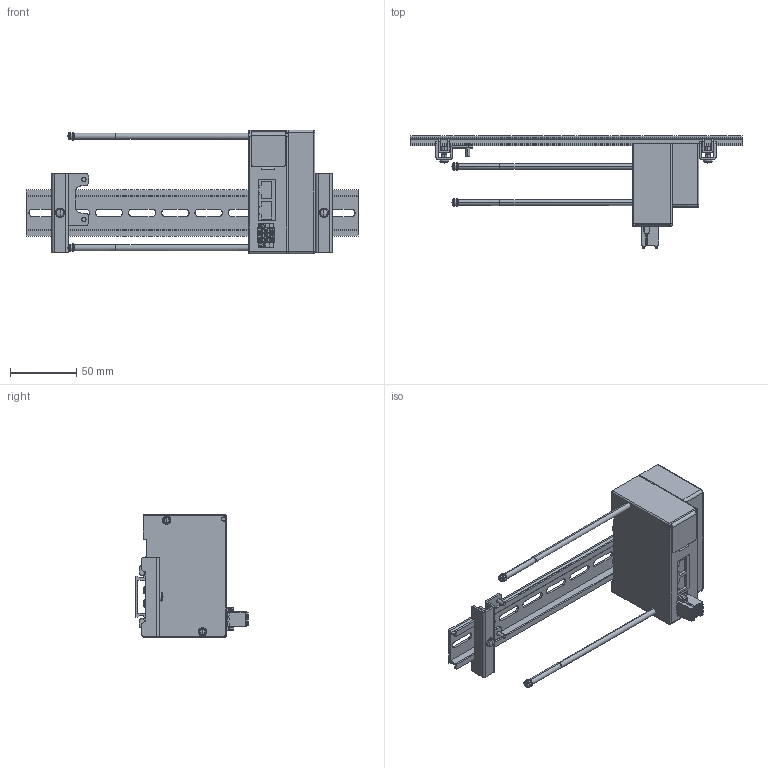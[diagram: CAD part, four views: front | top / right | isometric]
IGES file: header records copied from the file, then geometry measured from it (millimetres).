
Start section: ------------------------------------------------------------------------
Bounding box: 250 x 84.4 x 93 mm (x, y, z)
Volume: 285840.6 mm3; surface area: 72558.3 mm2
Topology: 4 solids, 4 shells, 1039 faces, 2731 edges, 1753 vertices
Faces by surface type: bspline 1039
